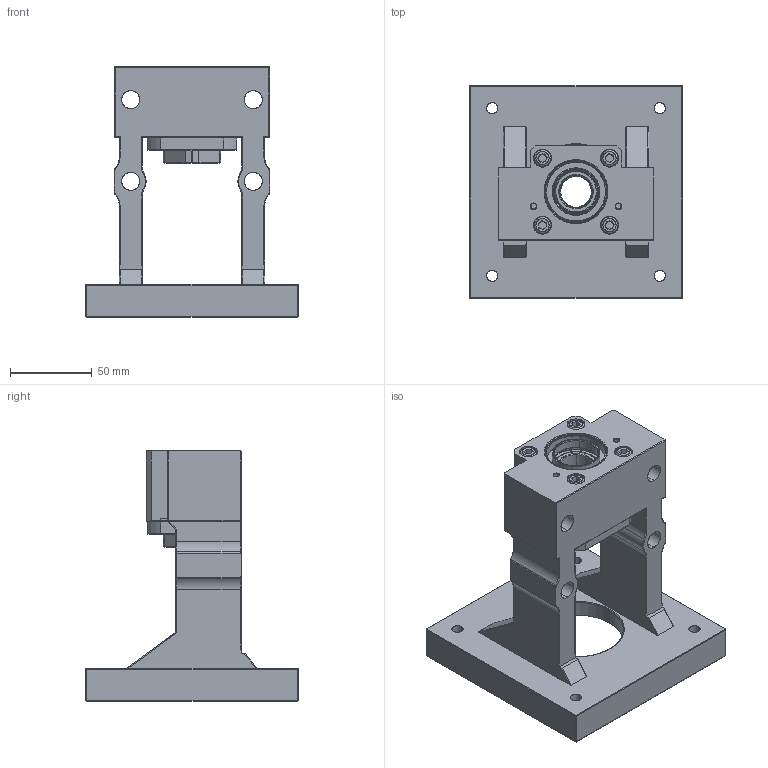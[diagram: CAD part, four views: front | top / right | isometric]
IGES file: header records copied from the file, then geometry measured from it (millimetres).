
Start section: SolidWorks IGES file using analytic representation for surfaces
Global section: file name: C:\Users\117\Desktop\1061208網站3D圖檔問題處理\傳動座\整合型\MBCS(F)\MBCF20\MBCF20-G.IGS,15HSolidWorks; native system: 2017; preprocessor: SolidWorks 2017; author: 117; date: 171228.152840; units: millimetre
Bounding box: 130 x 130 x 153 mm (x, y, z)
Surface area: 107925.3 mm2 (no closed solid volume)
Topology: 0 solids, 0 shells, 391 faces, 5386 edges, 5376 vertices
Faces by surface type: revolution 221, bspline 170
